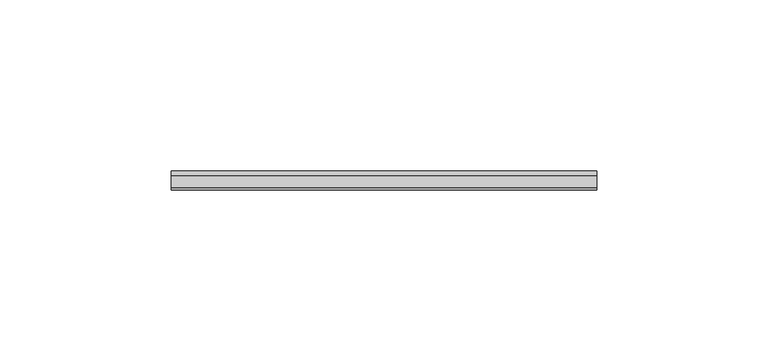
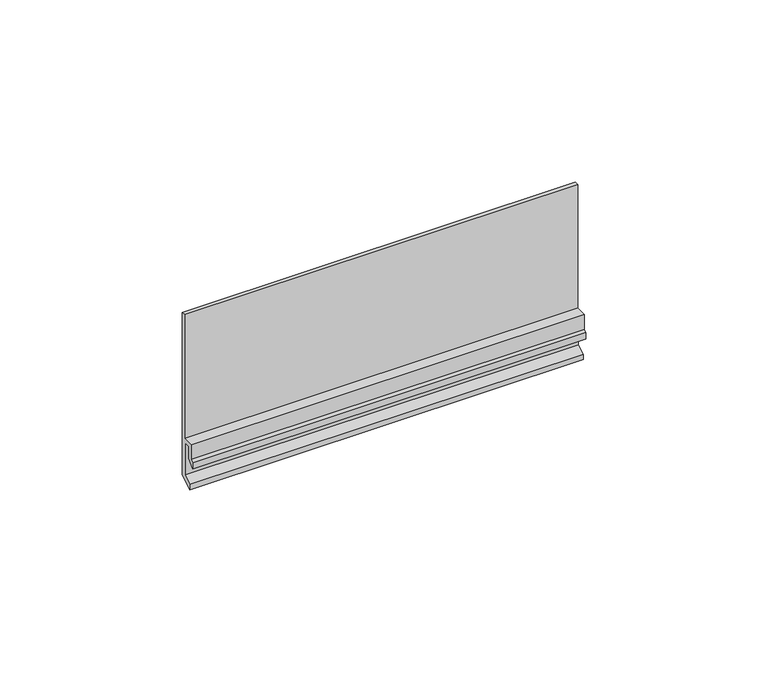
"""IFC4 building model written with IfcOpenShell, lengths in millimetres: plate geometry, FastPlank_P46V-V-Notch-6″-Plank-Horizontal : P46V-V-Notch-6″-Plank-Horizontal."""

from ifc_helpers import new_model, si_unit, frame, origin, place, context, project, spatial, polyline, outline, extrude, source, transform, mapped, element, save


def plate_d7aa4930(model_context):
    return source(origin(), model_context, "Body", "SweptSolid", [
        extrude(outline(polyline([(18.8745946, 2.3957023), (14.7246029, 0.0), (14.7246029, 1.7319938), (17.3745976, 3.2617795), (17.3745976, 13.9827581), (15.5246013, 13.9827581), (15.5246013, 9.9691576), (13.3162936, 7.7608499), (13.3162936, 9.8794005), (14.0246043, 10.5877112), (14.0246043, 15.4863039), (17.5745972, 15.4863039), (17.5745972, 56.8694827), (18.8745946, 56.8694827), (18.8745946, 2.3957023)])), frame((-62.199981, 0.0, 0.0), z_axis=(1.0, 0.0, 0.0), x_axis=(0.0, 1.0, 0.0)), (0.0, 0.0, 1.0), 124.3999619),
    ])


if __name__ == "__main__":
    model = new_model("IFC4")
    model_context = context("Model", 3, world=origin())
    ifc_project = project(units=[si_unit("LENGTHUNIT", "METRE", prefix="MILLI")], contexts=[model_context])
    site = spatial("IfcSite", under=ifc_project)
    building = spatial("IfcBuilding", under=site)
    placement = place(None, origin())
    plate_shape = plate_d7aa4930(model_context)
    element("IfcPlate", 1, ObjectType="FastPlank_P46V-V-Notch-6″-Plank-Horizontal : P46V-V-Notch-6″-Plank-Horizontal", at=placement, inside=building, context=model_context, shape_type="MappedRepresentation", body=[
        mapped(plate_shape, transform((0.0, 0.0, 0.0), x_axis=(1.0, 0.0, 0.0), y_axis=(0.0, 1.0, 0.0), z_axis=(0.0, 0.0, 1.0))),
    ])
    save(model, "model.ifc")
